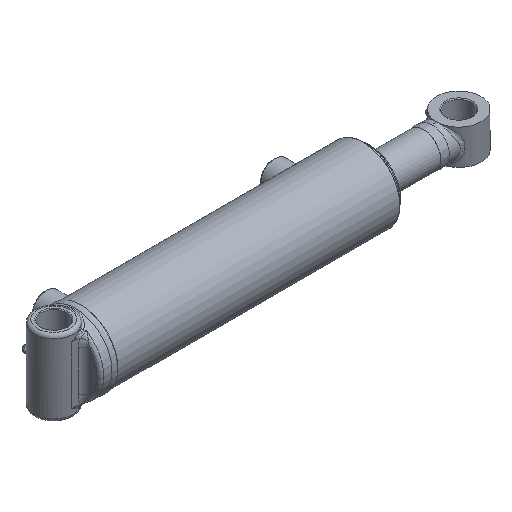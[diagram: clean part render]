
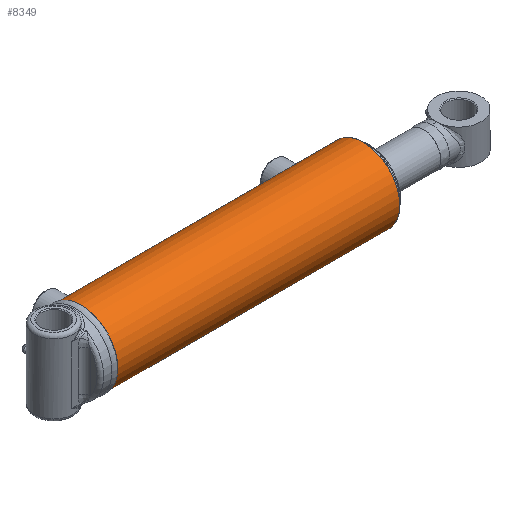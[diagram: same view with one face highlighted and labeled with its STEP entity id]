
A CAD part, isometric view. The second image highlights one B-rep face of the part: STEP entity #8349.
In plain terms, the highlighted cylindrical face has radius 36.513 mm (diameter 73.025 mm), a full revolution.
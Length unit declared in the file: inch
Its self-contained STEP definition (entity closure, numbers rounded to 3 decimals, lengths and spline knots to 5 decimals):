
#803=B_SPLINE_CURVE_WITH_KNOTS('',3,(#12229,#12230,#12231,#12232,#12233,
#12234,#12235,#12236,#12237,#12238),.UNSPECIFIED.,.F.,.F.,(4,2,2,2,4),(0.,
0.17962,0.35924,0.53885,0.71847),
 .UNSPECIFIED.);
#804=B_SPLINE_CURVE_WITH_KNOTS('',3,(#12239,#12240,#12241,#12242,#12243,
#12244,#12245,#12246,#12247,#12248,#12249,#12250,#12251,#12252,#12253,#12254,
#12255,#12256,#12257,#12258,#12259,#12260,#12261,#12262,#12263,#12264),
 .UNSPECIFIED.,.F.,.F.,(4,2,2,2,2,2,2,2,2,2,2,2,4),(0.71847,0.89808,
1.0777,1.25732,1.43694,1.61655,1.79617,
1.97579,2.1554,2.33502,2.51464,2.69425,
2.87387),.UNSPECIFIED.);
#805=B_SPLINE_CURVE_WITH_KNOTS('',3,(#12269,#12270,#12271,#12272,#12273,
#12274,#12275,#12276,#12277,#12278),.UNSPECIFIED.,.F.,.F.,(4,2,2,2,4),(0.,
0.17962,0.35924,0.53885,0.71847),
 .UNSPECIFIED.);
#806=B_SPLINE_CURVE_WITH_KNOTS('',3,(#12279,#12280,#12281,#12282,#12283,
#12284,#12285,#12286,#12287,#12288,#12289,#12290,#12291,#12292,#12293,#12294,
#12295,#12296,#12297,#12298,#12299,#12300,#12301,#12302,#12303,#12304),
 .UNSPECIFIED.,.F.,.F.,(4,2,2,2,2,2,2,2,2,2,2,2,4),(0.71847,0.89808,
1.0777,1.25732,1.43694,1.61655,1.79617,
1.97579,2.1554,2.33502,2.51464,2.69425,
2.87387),.UNSPECIFIED.);
#1153=FACE_BOUND('',#2720,.T.);
#1154=FACE_BOUND('',#2721,.T.);
#1432=LINE('',#12332,#1775);
#1775=VECTOR('',#10077,1.4375);
#2115=CYLINDRICAL_SURFACE('',#9120,1.4375);
#2205=FACE_OUTER_BOUND('',#2719,.T.);
#2719=EDGE_LOOP('',(#5884,#5885,#5886,#5887,#5888,#5889));
#2720=EDGE_LOOP('',(#5890,#5891));
#2721=EDGE_LOOP('',(#5892,#5893));
#3318=CIRCLE('',#9117,1.4375);
#3320=CIRCLE('',#9119,1.4375);
#3321=CIRCLE('',#9121,1.4375);
#3322=CIRCLE('',#9122,1.4375);
#3791=VERTEX_POINT('',#12226);
#3792=VERTEX_POINT('',#12228);
#3793=VERTEX_POINT('',#12266);
#3794=VERTEX_POINT('',#12268);
#3801=VERTEX_POINT('',#12325);
#3802=VERTEX_POINT('',#12326);
#3803=VERTEX_POINT('',#12331);
#3804=VERTEX_POINT('',#12333);
#4597=EDGE_CURVE('',#3792,#3791,#803,.T.);
#4598=EDGE_CURVE('',#3791,#3792,#804,.T.);
#4600=EDGE_CURVE('',#3794,#3793,#805,.T.);
#4601=EDGE_CURVE('',#3793,#3794,#806,.T.);
#4611=EDGE_CURVE('',#3801,#3802,#3318,.T.);
#4613=EDGE_CURVE('',#3802,#3801,#3320,.T.);
#4614=EDGE_CURVE('',#3801,#3803,#1432,.T.);
#4615=EDGE_CURVE('',#3804,#3803,#3321,.T.);
#4616=EDGE_CURVE('',#3803,#3804,#3322,.T.);
#5884=ORIENTED_EDGE('',*,*,#4611,.F.);
#5885=ORIENTED_EDGE('',*,*,#4614,.T.);
#5886=ORIENTED_EDGE('',*,*,#4615,.F.);
#5887=ORIENTED_EDGE('',*,*,#4616,.F.);
#5888=ORIENTED_EDGE('',*,*,#4614,.F.);
#5889=ORIENTED_EDGE('',*,*,#4613,.F.);
#5890=ORIENTED_EDGE('',*,*,#4597,.T.);
#5891=ORIENTED_EDGE('',*,*,#4598,.T.);
#5892=ORIENTED_EDGE('',*,*,#4600,.T.);
#5893=ORIENTED_EDGE('',*,*,#4601,.T.);
#8349=ADVANCED_FACE('',(#2205,#1153,#1154),#2115,.T.);
#9117=AXIS2_PLACEMENT_3D('',#12327,#10069,#10070);
#9119=AXIS2_PLACEMENT_3D('',#12329,#10073,#10074);
#9120=AXIS2_PLACEMENT_3D('',#12330,#10075,#10076);
#9121=AXIS2_PLACEMENT_3D('',#12334,#10078,#10079);
#9122=AXIS2_PLACEMENT_3D('',#12335,#10080,#10081);
#10069=DIRECTION('center_axis',(1.,0.,0.));
#10070=DIRECTION('ref_axis',(0.,-1.,0.));
#10073=DIRECTION('center_axis',(1.,0.,0.));
#10074=DIRECTION('ref_axis',(0.,-1.,0.));
#10075=DIRECTION('center_axis',(1.,0.,0.));
#10076=DIRECTION('ref_axis',(0.,-1.,0.));
#10077=DIRECTION('',(-1.,0.,0.));
#10078=DIRECTION('center_axis',(-1.,0.,0.));
#10079=DIRECTION('ref_axis',(0.,-1.,0.));
#10080=DIRECTION('center_axis',(-1.,0.,0.));
#10081=DIRECTION('ref_axis',(0.,-1.,0.));
#12226=CARTESIAN_POINT('',(0.5925,0.,1.4375));
#12228=CARTESIAN_POINT('',(0.78,-0.1875,1.42522));
#12229=CARTESIAN_POINT('Ctrl Pts',(0.78,-0.1875,1.42522));
#12230=CARTESIAN_POINT('Ctrl Pts',(0.75643,-0.1875,1.42522));
#12231=CARTESIAN_POINT('Ctrl Pts',(0.7313,-0.18278,
1.42586));
#12232=CARTESIAN_POINT('Ctrl Pts',(0.68512,-0.16364,
1.42819));
#12233=CARTESIAN_POINT('Ctrl Pts',(0.66405,-0.14921,
1.42983));
#12234=CARTESIAN_POINT('Ctrl Pts',(0.63079,-0.11595,
1.43291));
#12235=CARTESIAN_POINT('Ctrl Pts',(0.61636,-0.09488,
1.43455));
#12236=CARTESIAN_POINT('Ctrl Pts',(0.59722,-0.0487,
1.43686));
#12237=CARTESIAN_POINT('Ctrl Pts',(0.5925,-0.02357,1.4375));
#12238=CARTESIAN_POINT('Ctrl Pts',(0.5925,0.,1.4375));
#12239=CARTESIAN_POINT('Ctrl Pts',(0.5925,0.,1.4375));
#12240=CARTESIAN_POINT('Ctrl Pts',(0.5925,0.02357,1.4375));
#12241=CARTESIAN_POINT('Ctrl Pts',(0.59722,0.0487,
1.43686));
#12242=CARTESIAN_POINT('Ctrl Pts',(0.61636,0.09488,
1.43455));
#12243=CARTESIAN_POINT('Ctrl Pts',(0.63079,0.11595,
1.43291));
#12244=CARTESIAN_POINT('Ctrl Pts',(0.66405,0.14921,
1.42983));
#12245=CARTESIAN_POINT('Ctrl Pts',(0.68512,0.16364,
1.42819));
#12246=CARTESIAN_POINT('Ctrl Pts',(0.7313,0.18278,
1.42586));
#12247=CARTESIAN_POINT('Ctrl Pts',(0.75643,0.1875,1.42522));
#12248=CARTESIAN_POINT('Ctrl Pts',(0.80357,0.1875,1.42522));
#12249=CARTESIAN_POINT('Ctrl Pts',(0.8287,0.18278,
1.42586));
#12250=CARTESIAN_POINT('Ctrl Pts',(0.87488,0.16364,
1.42819));
#12251=CARTESIAN_POINT('Ctrl Pts',(0.89595,0.14921,
1.42983));
#12252=CARTESIAN_POINT('Ctrl Pts',(0.92921,0.11595,
1.43291));
#12253=CARTESIAN_POINT('Ctrl Pts',(0.94364,0.09488,
1.43455));
#12254=CARTESIAN_POINT('Ctrl Pts',(0.96278,0.0487,
1.43686));
#12255=CARTESIAN_POINT('Ctrl Pts',(0.9675,0.02357,1.4375));
#12256=CARTESIAN_POINT('Ctrl Pts',(0.9675,-0.02357,1.4375));
#12257=CARTESIAN_POINT('Ctrl Pts',(0.96278,-0.0487,
1.43686));
#12258=CARTESIAN_POINT('Ctrl Pts',(0.94364,-0.09488,
1.43455));
#12259=CARTESIAN_POINT('Ctrl Pts',(0.92921,-0.11595,
1.43291));
#12260=CARTESIAN_POINT('Ctrl Pts',(0.89595,-0.14921,
1.42983));
#12261=CARTESIAN_POINT('Ctrl Pts',(0.87488,-0.16364,
1.42819));
#12262=CARTESIAN_POINT('Ctrl Pts',(0.8287,-0.18278,
1.42586));
#12263=CARTESIAN_POINT('Ctrl Pts',(0.80357,-0.1875,1.42522));
#12264=CARTESIAN_POINT('Ctrl Pts',(0.78,-0.1875,1.42522));
#12266=CARTESIAN_POINT('',(9.6095,0.,1.4375));
#12268=CARTESIAN_POINT('',(9.797,-0.1875,1.42522));
#12269=CARTESIAN_POINT('Ctrl Pts',(9.797,-0.1875,1.42522));
#12270=CARTESIAN_POINT('Ctrl Pts',(9.77343,-0.1875,
1.42522));
#12271=CARTESIAN_POINT('Ctrl Pts',(9.7483,-0.18278,
1.42586));
#12272=CARTESIAN_POINT('Ctrl Pts',(9.70212,-0.16364,
1.42819));
#12273=CARTESIAN_POINT('Ctrl Pts',(9.68105,-0.14921,1.42983));
#12274=CARTESIAN_POINT('Ctrl Pts',(9.64779,-0.11595,1.43291));
#12275=CARTESIAN_POINT('Ctrl Pts',(9.63336,-0.09488,
1.43455));
#12276=CARTESIAN_POINT('Ctrl Pts',(9.61422,-0.0487,
1.43686));
#12277=CARTESIAN_POINT('Ctrl Pts',(9.6095,-0.02357,1.4375));
#12278=CARTESIAN_POINT('Ctrl Pts',(9.6095,0.,1.4375));
#12279=CARTESIAN_POINT('Ctrl Pts',(9.6095,0.,1.4375));
#12280=CARTESIAN_POINT('Ctrl Pts',(9.6095,0.02357,1.4375));
#12281=CARTESIAN_POINT('Ctrl Pts',(9.61422,0.0487,
1.43686));
#12282=CARTESIAN_POINT('Ctrl Pts',(9.63336,0.09488,
1.43455));
#12283=CARTESIAN_POINT('Ctrl Pts',(9.64779,0.11595,1.43291));
#12284=CARTESIAN_POINT('Ctrl Pts',(9.68105,0.14921,1.42983));
#12285=CARTESIAN_POINT('Ctrl Pts',(9.70212,0.16364,1.42819));
#12286=CARTESIAN_POINT('Ctrl Pts',(9.7483,0.18278,1.42586));
#12287=CARTESIAN_POINT('Ctrl Pts',(9.77343,0.1875,1.42522));
#12288=CARTESIAN_POINT('Ctrl Pts',(9.82057,0.1875,1.42522));
#12289=CARTESIAN_POINT('Ctrl Pts',(9.8457,0.18278,1.42586));
#12290=CARTESIAN_POINT('Ctrl Pts',(9.89188,0.16364,1.42819));
#12291=CARTESIAN_POINT('Ctrl Pts',(9.91295,0.14921,1.42983));
#12292=CARTESIAN_POINT('Ctrl Pts',(9.94621,0.11595,1.43291));
#12293=CARTESIAN_POINT('Ctrl Pts',(9.96064,0.09488,
1.43455));
#12294=CARTESIAN_POINT('Ctrl Pts',(9.97978,0.0487,1.43686));
#12295=CARTESIAN_POINT('Ctrl Pts',(9.9845,0.02357,1.4375));
#12296=CARTESIAN_POINT('Ctrl Pts',(9.9845,-0.02357,1.4375));
#12297=CARTESIAN_POINT('Ctrl Pts',(9.97978,-0.0487,
1.43686));
#12298=CARTESIAN_POINT('Ctrl Pts',(9.96064,-0.09488,
1.43455));
#12299=CARTESIAN_POINT('Ctrl Pts',(9.94621,-0.11595,1.43291));
#12300=CARTESIAN_POINT('Ctrl Pts',(9.91295,-0.14921,1.42983));
#12301=CARTESIAN_POINT('Ctrl Pts',(9.89188,-0.16364,
1.42819));
#12302=CARTESIAN_POINT('Ctrl Pts',(9.8457,-0.18278,
1.42586));
#12303=CARTESIAN_POINT('Ctrl Pts',(9.82057,-0.1875,
1.42522));
#12304=CARTESIAN_POINT('Ctrl Pts',(9.797,-0.1875,1.42522));
#12325=CARTESIAN_POINT('',(11.227,1.4375,0.));
#12326=CARTESIAN_POINT('',(11.227,0.,-1.4375));
#12327=CARTESIAN_POINT('Origin',(11.227,0.,0.));
#12329=CARTESIAN_POINT('Origin',(11.227,0.,0.));
#12330=CARTESIAN_POINT('Origin',(0.,0.,0.));
#12331=CARTESIAN_POINT('',(0.09382,1.4375,0.));
#12332=CARTESIAN_POINT('',(0.,1.4375,0.));
#12333=CARTESIAN_POINT('',(0.09382,0.,1.4375));
#12334=CARTESIAN_POINT('Origin',(0.09382,0.,0.));
#12335=CARTESIAN_POINT('Origin',(0.09382,0.,0.));
